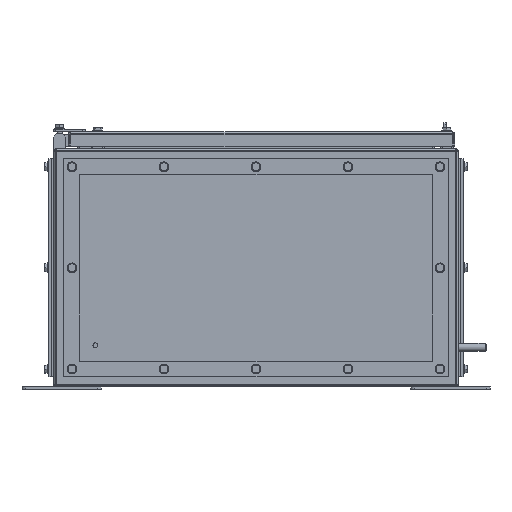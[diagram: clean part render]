
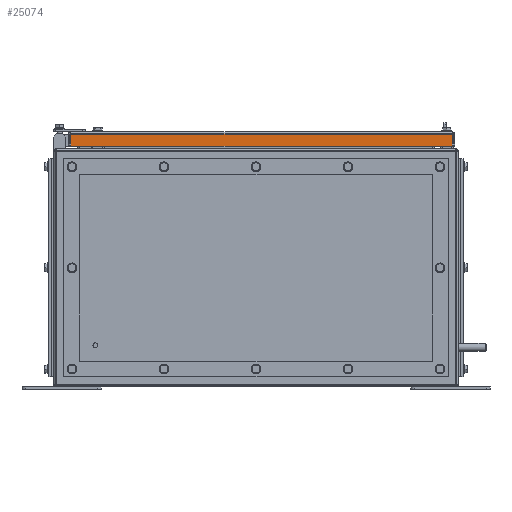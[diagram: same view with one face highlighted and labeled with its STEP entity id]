
A CAD part, front view. The second image highlights one B-rep face of the part: STEP entity #25074.
In plain terms, the highlighted planar face has unit normal (0, -1, 0).
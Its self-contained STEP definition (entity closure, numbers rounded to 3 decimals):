
#158 = CARTESIAN_POINT ( 'NONE',  ( 14., -387., 15. ) ) ;
#775 = EDGE_CURVE ( 'NONE', #5701, #2125, #3900, .T. ) ;
#1248 = DIRECTION ( 'NONE',  ( 0., 0., 1. ) ) ;
#2125 = VERTEX_POINT ( 'NONE', #18089 ) ;
#3900 = LINE ( 'NONE', #14733, #29633 ) ;
#4625 = FACE_OUTER_BOUND ( 'NONE', #34142, .T. ) ;
#5012 = VECTOR ( 'NONE', #6869, 1000. ) ;
#5396 = CARTESIAN_POINT ( 'NONE',  ( 495., -387., 0. ) ) ;
#5701 = VERTEX_POINT ( 'NONE', #5396 ) ;
#6869 = DIRECTION ( 'NONE',  ( 0., 0., -1. ) ) ;
#8193 = VERTEX_POINT ( 'NONE', #33001 ) ;
#12257 = DIRECTION ( 'NONE',  ( 0., 1., 0. ) ) ;
#12551 = ORIENTED_EDGE ( 'NONE', *, *, #775, .T. ) ;
#12765 = CARTESIAN_POINT ( 'NONE',  ( 11., -387., 15. ) ) ;
#14733 = CARTESIAN_POINT ( 'NONE',  ( 495., -387., 18. ) ) ;
#14771 = LINE ( 'NONE', #22755, #22353 ) ;
#15507 = EDGE_CURVE ( 'NONE', #2125, #25732, #20577, .T. ) ;
#17872 = EDGE_CURVE ( 'NONE', #8193, #5701, #14771, .T. ) ;
#18089 = CARTESIAN_POINT ( 'NONE',  ( 495., -387., 15. ) ) ;
#18126 = CARTESIAN_POINT ( 'NONE',  ( 11., -387., 18. ) ) ;
#20402 = EDGE_CURVE ( 'NONE', #25732, #8193, #25512, .T. ) ;
#20577 = LINE ( 'NONE', #12765, #22019 ) ;
#20600 = DIRECTION ( 'NONE',  ( 0., 0., 1. ) ) ;
#21294 = ORIENTED_EDGE ( 'NONE', *, *, #15507, .T. ) ;
#22019 = VECTOR ( 'NONE', #26602, 1000. ) ;
#22353 = VECTOR ( 'NONE', #33395, 1000. ) ;
#22755 = CARTESIAN_POINT ( 'NONE',  ( 11., -387., 0. ) ) ;
#22852 = CARTESIAN_POINT ( 'NONE',  ( 14., -387., 18. ) ) ;
#23633 = ORIENTED_EDGE ( 'NONE', *, *, #20402, .T. ) ;
#23725 = AXIS2_PLACEMENT_3D ( 'NONE', #18126, #12257, #20600 ) ;
#25074 = ADVANCED_FACE ( 'NONE', ( #4625 ), #34424, .F. ) ;
#25512 = LINE ( 'NONE', #22852, #5012 ) ;
#25732 = VERTEX_POINT ( 'NONE', #158 ) ;
#26602 = DIRECTION ( 'NONE',  ( -1., 0., 0. ) ) ;
#29633 = VECTOR ( 'NONE', #1248, 1000. ) ;
#32524 = ORIENTED_EDGE ( 'NONE', *, *, #17872, .T. ) ;
#33001 = CARTESIAN_POINT ( 'NONE',  ( 14., -387., 0. ) ) ;
#33395 = DIRECTION ( 'NONE',  ( 1., 0., 0. ) ) ;
#34142 = EDGE_LOOP ( 'NONE', ( #32524, #12551, #21294, #23633 ) ) ;
#34424 = PLANE ( 'NONE',  #23725 ) ;
